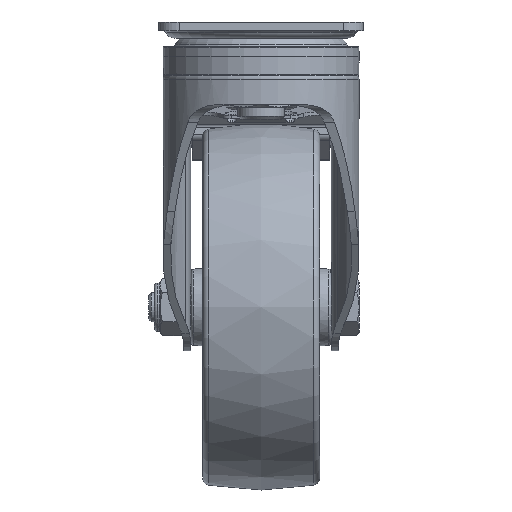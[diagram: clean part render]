
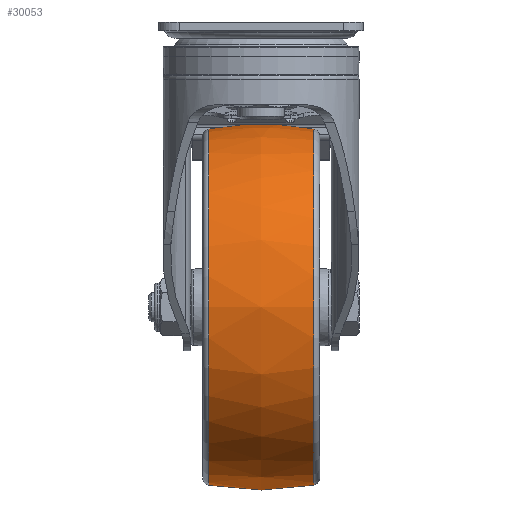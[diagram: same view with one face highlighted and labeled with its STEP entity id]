
A CAD part, left-side view. The second image highlights one B-rep face of the part: STEP entity #30053.
In plain terms, the highlighted free-form (B-spline) face has degree [2, 2] with [3, 9] control points.
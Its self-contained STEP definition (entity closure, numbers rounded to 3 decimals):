
#68=(
BOUNDED_SURFACE()
B_SPLINE_SURFACE(2,2,((#44899,#44900,#44901,#44902,#44903,#44904,#44905,
#44906,#44907),(#44908,#44909,#44910,#44911,#44912,#44913,#44914,#44915,
#44916),(#44917,#44918,#44919,#44920,#44921,#44922,#44923,#44924,#44925)),
 .UNSPECIFIED.,.F.,.T.,.F.)
B_SPLINE_SURFACE_WITH_KNOTS((3,3),(3,2,2,2,3),(-0.18,0.18),
(-3.142,-1.571,0.,1.571,3.142),
 .UNSPECIFIED.)
GEOMETRIC_REPRESENTATION_ITEM()
RATIONAL_B_SPLINE_SURFACE(((1.,0.707,1.,0.707,1.,
0.707,1.,0.707,1.),(0.984,0.696,
0.984,0.696,0.984,0.696,
0.984,0.696,0.984),(1.,0.707,
1.,0.707,1.,0.707,1.,0.707,1.)))
REPRESENTATION_ITEM('')
SURFACE()
);
#9002=FACE_OUTER_BOUND('',#10772,.T.);
#10772=EDGE_LOOP('',(#22955,#22956,#22957,#22958));
#12231=CIRCLE('',#31739,60.876);
#12233=CIRCLE('',#31741,60.876);
#12234=CIRCLE('',#31742,100.);
#13771=VERTEX_POINT('',#44896);
#13772=VERTEX_POINT('',#44926);
#17154=EDGE_CURVE('',#13771,#13771,#12231,.T.);
#17156=EDGE_CURVE('',#13772,#13772,#12233,.T.);
#17157=EDGE_CURVE('',#13772,#13771,#12234,.T.);
#22955=ORIENTED_EDGE('',*,*,#17156,.F.);
#22956=ORIENTED_EDGE('',*,*,#17157,.T.);
#22957=ORIENTED_EDGE('',*,*,#17154,.T.);
#22958=ORIENTED_EDGE('',*,*,#17157,.F.);
#30053=ADVANCED_FACE('',(#9002),#68,.F.);
#31739=AXIS2_PLACEMENT_3D('',#44897,#34960,#34961);
#31741=AXIS2_PLACEMENT_3D('',#44927,#34964,#34965);
#31742=AXIS2_PLACEMENT_3D('',#44928,#34966,#34967);
#34960=DIRECTION('center_axis',(0.,-1.,0.));
#34961=DIRECTION('ref_axis',(0.,0.,
-1.));
#34964=DIRECTION('center_axis',(0.,-1.,0.));
#34965=DIRECTION('ref_axis',(0.,0.,
-1.));
#34966=DIRECTION('center_axis',(-1.,0.,0.));
#34967=DIRECTION('ref_axis',(0.,0.,1.));
#44896=CARTESIAN_POINT('',(32.,17.949,-35.424));
#44897=CARTESIAN_POINT('Origin',(32.,17.949,-96.3));
#44899=CARTESIAN_POINT('Ctrl Pts',(32.,17.949,-35.424));
#44900=CARTESIAN_POINT('Ctrl Pts',(-28.876,17.949,-35.424));
#44901=CARTESIAN_POINT('Ctrl Pts',(-28.876,17.949,-96.3));
#44902=CARTESIAN_POINT('Ctrl Pts',(-28.876,17.949,-157.176));
#44903=CARTESIAN_POINT('Ctrl Pts',(32.,17.949,-157.176));
#44904=CARTESIAN_POINT('Ctrl Pts',(92.876,17.949,-157.176));
#44905=CARTESIAN_POINT('Ctrl Pts',(92.876,17.949,-96.3));
#44906=CARTESIAN_POINT('Ctrl Pts',(92.876,17.949,-35.424));
#44907=CARTESIAN_POINT('Ctrl Pts',(32.,17.949,-35.424));
#44908=CARTESIAN_POINT('Ctrl Pts',(32.,0.,
-32.149));
#44909=CARTESIAN_POINT('Ctrl Pts',(-32.151,0.,
-32.149));
#44910=CARTESIAN_POINT('Ctrl Pts',(-32.151,0.,
-96.3));
#44911=CARTESIAN_POINT('Ctrl Pts',(-32.151,0.,
-160.451));
#44912=CARTESIAN_POINT('Ctrl Pts',(32.,0.,
-160.451));
#44913=CARTESIAN_POINT('Ctrl Pts',(96.151,0.,
-160.451));
#44914=CARTESIAN_POINT('Ctrl Pts',(96.151,0.,
-96.3));
#44915=CARTESIAN_POINT('Ctrl Pts',(96.151,0.,
-32.149));
#44916=CARTESIAN_POINT('Ctrl Pts',(32.,0.,
-32.149));
#44917=CARTESIAN_POINT('Ctrl Pts',(32.,-17.949,-35.424));
#44918=CARTESIAN_POINT('Ctrl Pts',(-28.876,-17.949,
-35.424));
#44919=CARTESIAN_POINT('Ctrl Pts',(-28.876,-17.949,
-96.3));
#44920=CARTESIAN_POINT('Ctrl Pts',(-28.876,-17.949,
-157.176));
#44921=CARTESIAN_POINT('Ctrl Pts',(32.,-17.949,-157.176));
#44922=CARTESIAN_POINT('Ctrl Pts',(92.876,-17.949,-157.176));
#44923=CARTESIAN_POINT('Ctrl Pts',(92.876,-17.949,-96.3));
#44924=CARTESIAN_POINT('Ctrl Pts',(92.876,-17.949,-35.424));
#44925=CARTESIAN_POINT('Ctrl Pts',(32.,-17.949,-35.424));
#44926=CARTESIAN_POINT('',(32.,-17.949,-35.424));
#44927=CARTESIAN_POINT('Origin',(32.,-17.949,-96.3));
#44928=CARTESIAN_POINT('Origin',(32.,0.,
-133.8));
